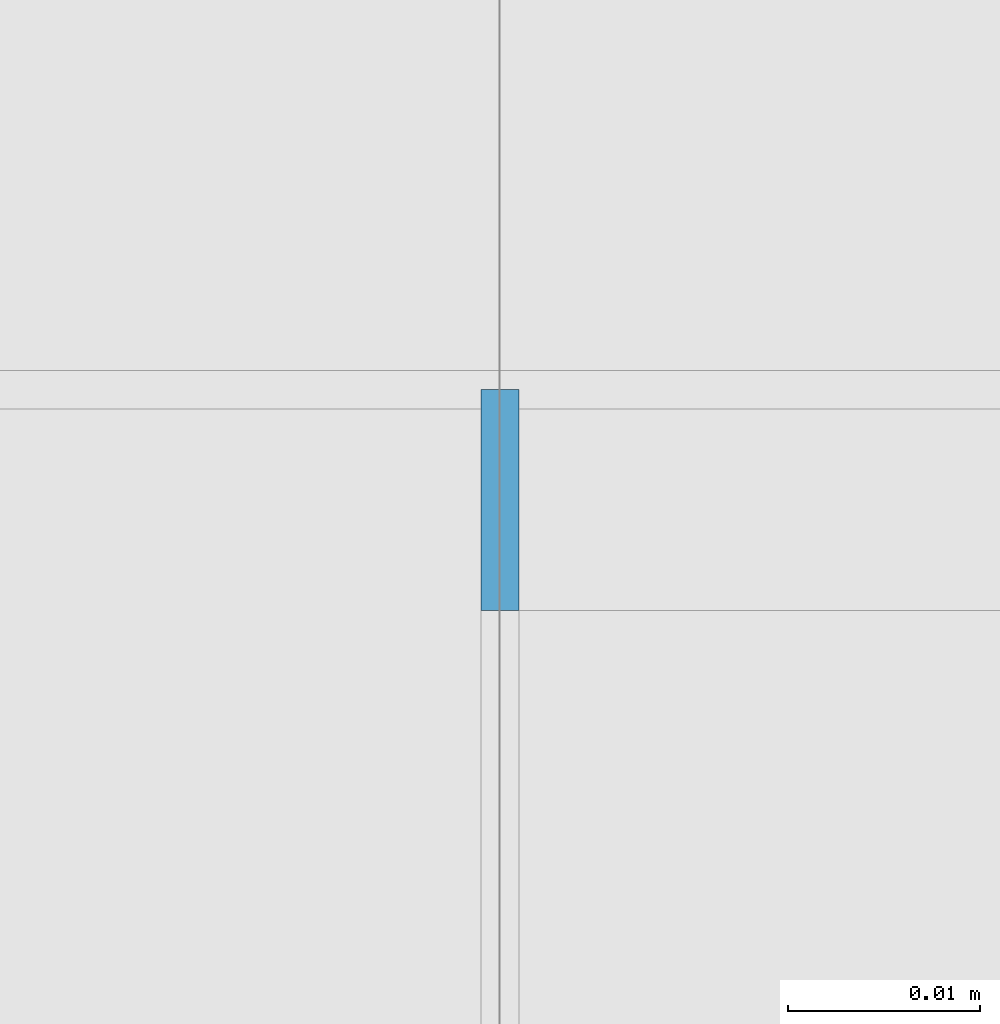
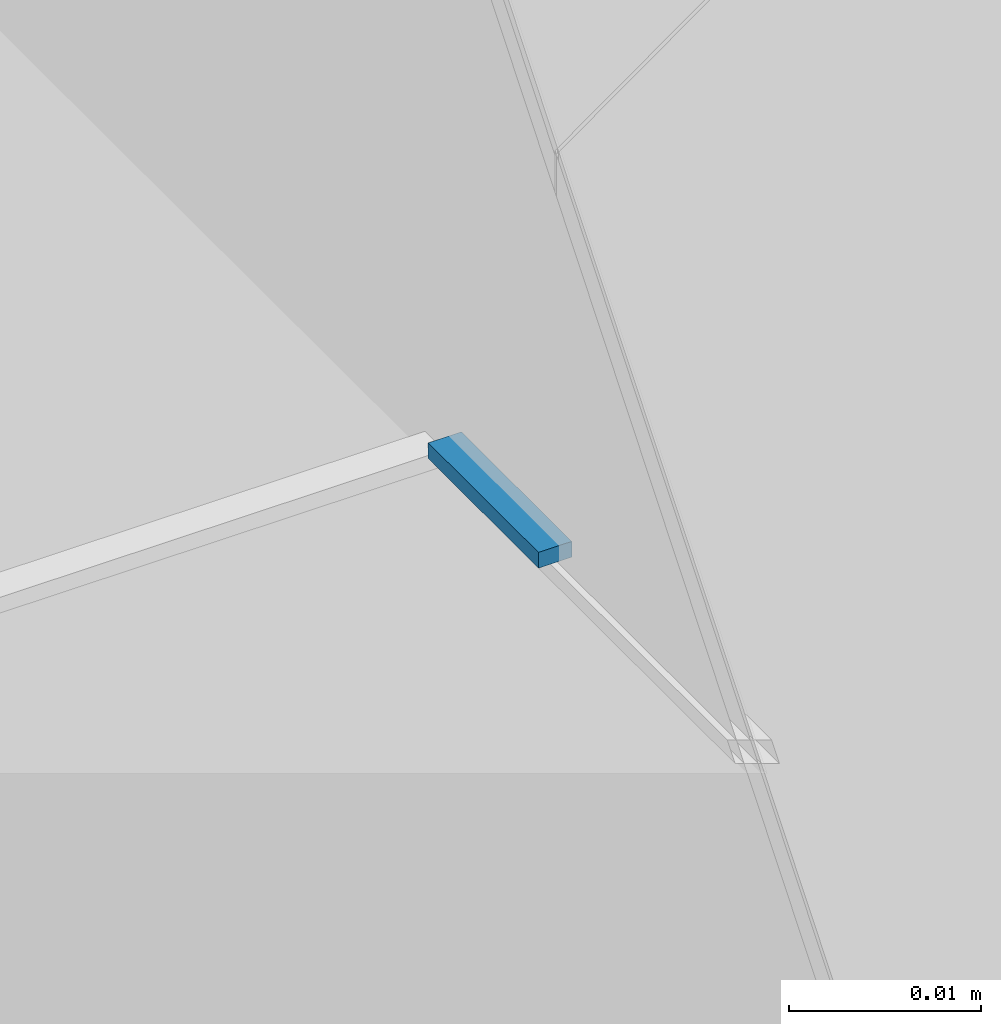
# One storey, part 7 of 11: 1 beam.
"""IFC2X3 building model written with IfcOpenShell, lengths in metres."""

from ifc_helpers import new_model, si_unit, direction, frame, origin_with_axes, place, context, subcontext, project, spatial, polyline, outline, extrude, material, type_object, element, save


model = new_model("IFC2X3")

# Units and contexts
model_context = context("Model", 3, precision=0.0001, world=origin_with_axes(), true_north=direction((0.0, 1.0)))
plan_context = context("Plan", 2, precision=0.0001, world=origin_with_axes(), true_north=direction((0.0, 1.0)))
body_context = subcontext(model_context, "Body", "Model", "MODEL_VIEW")
ifc_project = project(units=[si_unit("MASSUNIT", "GRAM", prefix="KILO"), si_unit("AREAUNIT", "SQUARE_METRE"), si_unit("LENGTHUNIT", "METRE"), si_unit("VOLUMEUNIT", "CUBIC_METRE")], contexts=[plan_context, model_context])

# Site, building, storey
site_placement = place(None, origin_with_axes())
site = spatial("IfcSite", under=ifc_project, at=site_placement, Name="$", CompositionType="ELEMENT")
building_placement = place(site_placement, origin_with_axes())
building = spatial("IfcBuilding", under=site, at=building_placement, Name="Classeur ENS Ensemble", CompositionType="ELEMENT")
storey_placement = place(building_placement, frame((-3.040468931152, -16.07714394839, 6.03), z_axis=(0.0, 0.0, 1.0), x_axis=(1.0, 0.0, 0.0)))
storey = spatial("IfcBuildingStorey", under=building, at=storey_placement, Name="003 R+2", CompositionType="ELEMENT", Elevation=6.03)

# Beam
ifc_material = material(Name="Default material")
beam_type = type_object("IfcBeamType", PredefinedType="BEAM")
beam_placement = place(storey_placement, frame((13.42597535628, 4.285654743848, 2.5), z_axis=(0.0, 0.0, 1.0), x_axis=(0.0, 1.0, 0.0)))
element("IfcBeam", 1, at=beam_placement, inside=storey, type_object=beam_type, material=ifc_material, Name="poutre fictive 250", context=body_context, shape_type="SweptSolid", held_by="IfcProductRepresentation", body=[
    extrude(outline(polyline([(0.0, 0.001000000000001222), (0.0, 0.001000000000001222), (0.0, 0.001000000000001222), (0.01148920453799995, 0.001000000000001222), (0.01148920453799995, 0.001000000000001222), (0.01148920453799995, 0.001000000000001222), (0.01148920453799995, -0.0009999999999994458), (0.01148920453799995, -0.0009999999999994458), (0.01148920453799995, -0.0009999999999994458), (0.0, -0.0009999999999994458), (0.0, -0.0009999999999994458), (0.0, -0.0009999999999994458), (0.0, 0.001000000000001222)])), origin_with_axes(), (0.0, 0.0, 1.0), 0.001),
])

save(model, "model.ifc")
